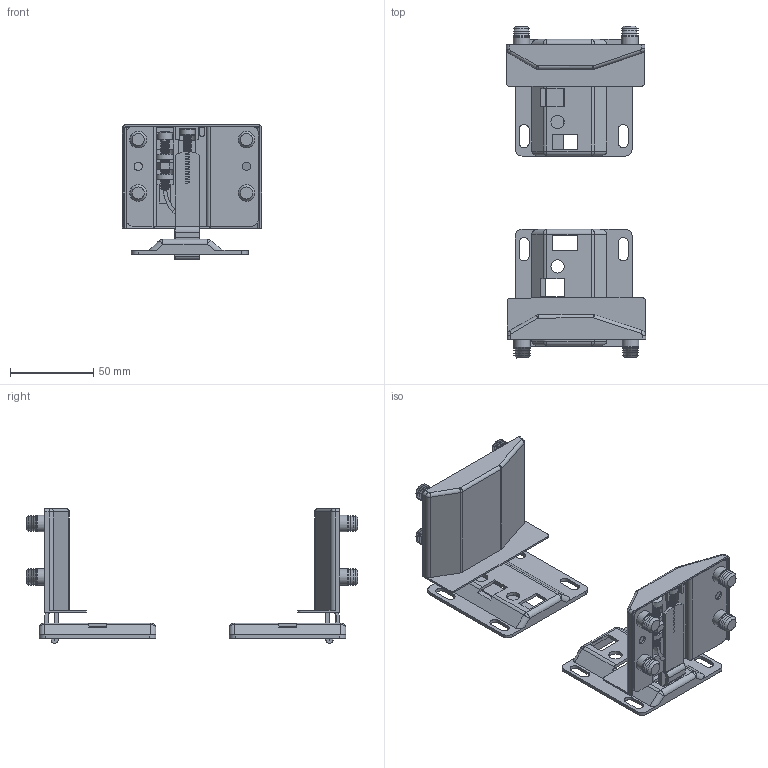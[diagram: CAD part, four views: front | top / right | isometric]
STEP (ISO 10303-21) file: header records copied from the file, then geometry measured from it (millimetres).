
FILE_DESCRIPTION(/* description */ (''),/* implementation_level */ '2;1');
FILE_NAME(/* name */ 'C:\Users\dmitruk\Documents\WORK\Навесы\VOLAT\Volat.0005 .stp',/* time_stamp */ '2022-04-25T10:23:41+03:00',/* author */ ('dmitruk'),/* organization */ (''),/* preprocessor_version */ 'ST-DEVELOPER v16.5',/* originating_system */ 'Autodesk Inventor 2017',/* authorisation */ '');
FILE_SCHEMA (('AUTOMOTIVE_DESIGN { 1 0 10303 214 3 1 1 }'));
Length unit declared in the file: millimetre
Products named in the file (25): Volat.0005; Твердое \X2\04420435043B043E
\X0\12; Твердое \X2\04420435043B043E
\X0\11; Volat правый; Твердое \X2\04420435043B043E
\X0\1_1; Твердое \X2\04420435043B043E
\X0\2_1; Твердое \X2\04420435043B043E
\X0\3_1; Твердое \X2\04420435043B043E
\X0\4_1; Твердое \X2\04420435043B043E
\X0\5_1; Твердое \X2\04420435043B043E
\X0\6_1; Твердое \X2\04420435043B043E
\X0\7_1; Твердое \X2\04420435043B043E
\X0\8_1; Твердое \X2\04420435043B043E
\X0\9_1; Твердое \X2\04420435043B043E
\X0\10_1; Volat левый; Твердое \X2\04420435043B043E
\X0\1_2; Твердое \X2\04420435043B043E
\X0\2_2; Твердое \X2\04420435043B043E
\X0\3_2; Твердое \X2\04420435043B043E
\X0\4_2; Твердое \X2\04420435043B043E
\X0\5_2; Твердое \X2\04420435043B043E
\X0\6_2; Твердое \X2\04420435043B043E
\X0\7_2; Твердое \X2\04420435043B043E
\X0\8_2; Твердое \X2\04420435043B043E
\X0\9_2; Твердое \X2\04420435043B043E
\X0\10_2
Assembly tree (25 placements, depth 3):
  Volat.0005
    Твердое \X2\04420435043B043E
\X0\11  x2
    Твердое \X2\04420435043B043E
\X0\12
    Volat правый
      Твердое \X2\04420435043B043E
\X0\1_1
      Твердое \X2\04420435043B043E
\X0\2_1
      Твердое \X2\04420435043B043E
\X0\3_1
      Твердое \X2\04420435043B043E
\X0\4_1
      Твердое \X2\04420435043B043E
\X0\5_1
      Твердое \X2\04420435043B043E
\X0\6_1
      Твердое \X2\04420435043B043E
\X0\7_1
      Твердое \X2\04420435043B043E
\X0\8_1
      Твердое \X2\04420435043B043E
\X0\9_1
      Твердое \X2\04420435043B043E
\X0\10_1
    Volat левый
      Твердое \X2\04420435043B043E
\X0\1_2
      Твердое \X2\04420435043B043E
\X0\2_2
      Твердое \X2\04420435043B043E
\X0\3_2
      Твердое \X2\04420435043B043E
\X0\4_2
      Твердое \X2\04420435043B043E
\X0\5_2
      Твердое \X2\04420435043B043E
\X0\6_2
      Твердое \X2\04420435043B043E
\X0\7_2
      Твердое \X2\04420435043B043E
\X0\8_2
      Твердое \X2\04420435043B043E
\X0\9_2
      Твердое \X2\04420435043B043E
\X0\10_2
Bounding box: 83.45 x 199.07 x 80.8 mm (x, y, z)
Volume: 69803.4 mm3; surface area: 95757.4 mm2
Topology: 35 solids, 35 shells, 1128 faces, 2910 edges, 1858 vertices
Faces by surface type: plane 672, cylinder 348, cone 52, bspline 24, sphere 20, torus 12
Full cylindrical faces by diameter (mm): 4 x118, 4.5 x2, 5 x4, 8 x4, 9 x4, 10 x16
Entity records: 37369 total; most frequent: CARTESIAN_POINT 14603, DIRECTION 4700, ORIENTED_EDGE 4480, EDGE_CURVE 2240, AXIS2_PLACEMENT_3D 1579, LINE 1542, VECTOR 1542, VERTEX_POINT 1482
